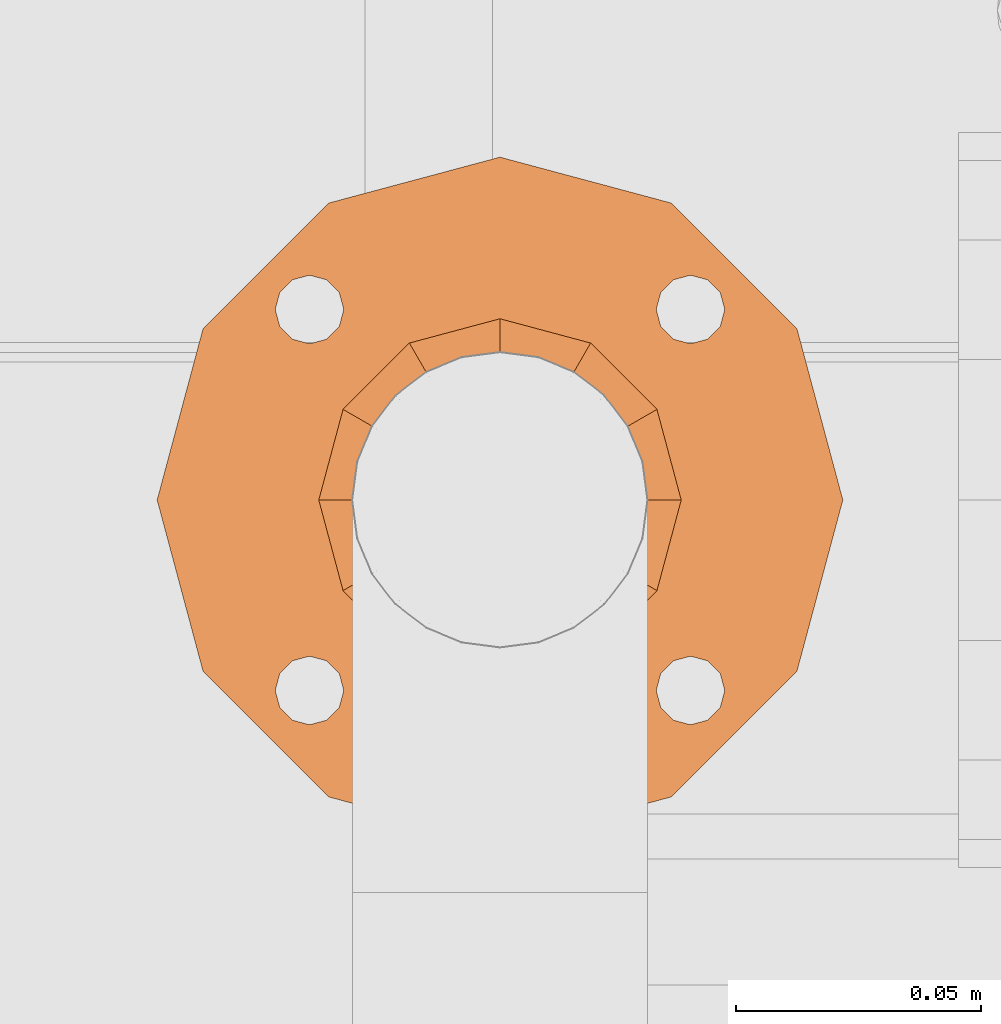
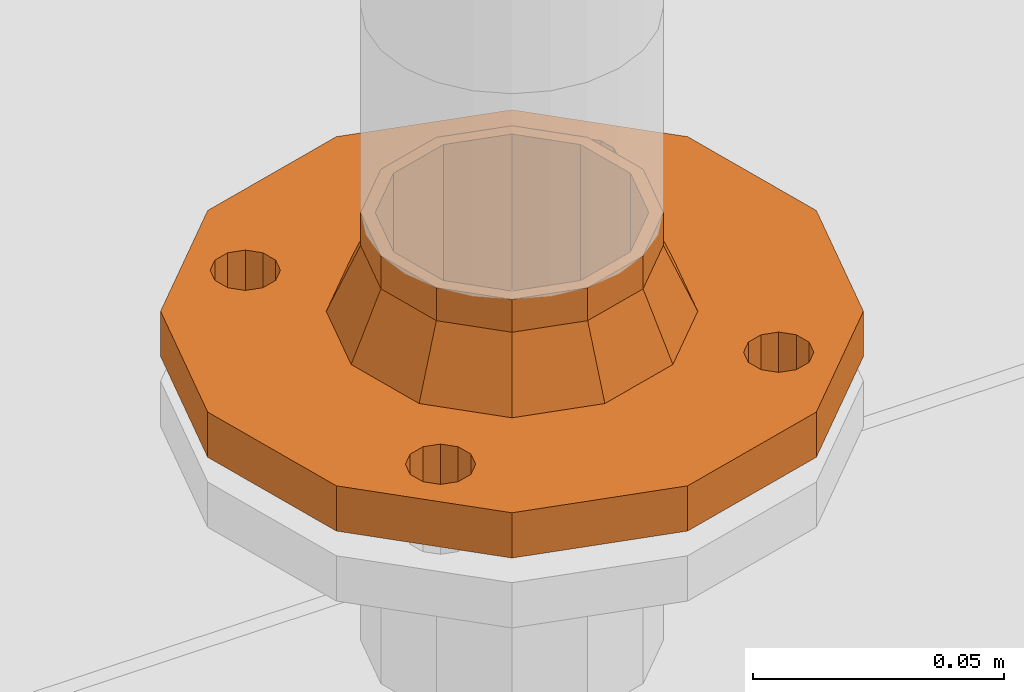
# One storey, part 371 of 374: 1 proxy.
"""IFC2X3 building model written with IfcOpenShell, lengths in metres."""

from ifc_helpers import new_model, si_unit, direction, origin, place, context, subcontext, project, spatial, open_shell, surface_model, source, transform, mapped, element, save


model = new_model("IFC2X3")

# Units and contexts
model_context = context("Model", 3, precision=1e-05, world=origin(), true_north=direction((-0.4480736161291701, 0.8939966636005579)))
body_context = subcontext(model_context, "Body", "Model", "MODEL_VIEW")
ifc_project = project(units=[si_unit("LENGTHUNIT", "METRE"), si_unit("AREAUNIT", "SQUARE_METRE"), si_unit("VOLUMEUNIT", "CUBIC_METRE"), si_unit("PLANEANGLEUNIT", "RADIAN"), si_unit("THERMODYNAMICTEMPERATUREUNIT", "KELVIN"), si_unit("MASSUNIT", "GRAM", prefix="KILO"), si_unit("TIMEUNIT", "SECOND")], contexts=[model_context])

# Site, building, storey
site_placement = place(None, origin())
site = spatial("IfcSite", under=ifc_project, at=site_placement, Name="Site 1", CompositionType="ELEMENT")
building_placement = place(site_placement, origin())
building = spatial("IfcBuilding", under=site, at=building_placement, Name="Undefined", CompositionType="ELEMENT")
storey_placement = place(building_placement, origin())
storey = spatial("IfcBuildingStorey", under=building, at=storey_placement, Name="Rez de chauss\x8ee", CompositionType="ELEMENT", Elevation=0.0)

# Proxy
shared_shape = source(origin(), body_context, "Body", "SurfaceModel", [
    surface_model("IfcFaceBasedSurfaceModel", [(0.011581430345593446, 7.105427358e-15, 7.105427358e-15), (0.010447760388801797, 0.0034415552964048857, 3.552713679e-15), (0.0, 0.0, 0.0), (0.009465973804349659, 0.00642202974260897, -0.001811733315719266), (-0.0009817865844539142, 0.0029804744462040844, -0.001811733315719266), (0.008899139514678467, 0.008142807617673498, -0.00494974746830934), (-0.0015486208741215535, 0.004701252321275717, -0.00494974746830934), (0.008899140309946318, 0.008142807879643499, -0.008573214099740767), (-0.0015486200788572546, 0.004701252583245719, -0.008573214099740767), (0.009465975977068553, 0.006422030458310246, -0.01171122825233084), (-0.0009817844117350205, 0.002980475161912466, -0.01171122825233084), (0.010447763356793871, 0.003441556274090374, -0.013522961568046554), (2.967983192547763e-09, 9.77685488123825e-10, -0.013522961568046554), (0.011581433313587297, 9.77678382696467e-10, -0.013522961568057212), (0.001133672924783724, -0.0034415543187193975, -0.013522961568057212), (0.012563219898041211, -0.0029804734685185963, -0.011711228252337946), (0.002115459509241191, -0.0064220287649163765, -0.011711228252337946), (0.013130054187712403, -0.004701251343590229, -0.008573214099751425), (0.002682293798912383, -0.00814280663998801, -0.008573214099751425), (0.013130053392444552, -0.004701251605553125, -0.0049497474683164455), (0.0026822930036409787, -0.008142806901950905, -0.0049497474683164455), (0.012563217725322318, -0.0029804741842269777, -0.0018117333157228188), (0.0021154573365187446, -0.006422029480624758, -0.0018117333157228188), (0.0011336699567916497, -0.003441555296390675, 7.105427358e-15), (0.010447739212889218, 0.0034415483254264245, 0.0964770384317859), (0.011581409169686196, -6.970971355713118e-09, 0.09647703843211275), (0.0011336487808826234, -0.003441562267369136, 0.09647703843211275), (0.01256319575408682, -0.0029804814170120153, 0.09828877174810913), (0.0021154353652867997, -0.0064220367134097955, 0.09828877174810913), (0.013130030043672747, -0.004701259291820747, 0.10142678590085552), (0.002682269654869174, -0.008142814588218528, 0.10142678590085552), (0.013130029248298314, -0.004701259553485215, 0.10505025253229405), (0.002682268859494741, -0.008142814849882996, 0.10505025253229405), (0.012563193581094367, -0.0029804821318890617, 0.1081882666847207), (0.0021154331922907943, -0.006422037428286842, 0.1081882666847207), (0.011581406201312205, -7.94751287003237e-09, 0.11000000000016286), (0.0011336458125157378, -0.0034415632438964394, 0.11000000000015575), (0.010447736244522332, 0.0034415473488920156, 0.1099999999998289), (-2.414428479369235e-08, -7.947505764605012e-09, 0.109999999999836), (0.009465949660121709, 0.006422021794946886, 0.10818826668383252), (-0.0009818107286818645, 0.0029804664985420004, 0.10818826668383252), (0.008899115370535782, 0.008142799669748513, 0.10505025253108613), (-0.0015486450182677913, 0.0047012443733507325, 0.10505025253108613), (0.008899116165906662, 0.00814279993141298, 0.1014267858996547), (-0.0015486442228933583, 0.0047012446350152, 0.1014267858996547), (0.009465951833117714, 0.006422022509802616, 0.09828877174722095), (-0.0009818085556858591, 0.002980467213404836, 0.09828877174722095), (-2.1175917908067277e-08, -6.970971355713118e-09, 0.096477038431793), (-0.004077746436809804, 0.04753754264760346, 0.046426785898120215), (-0.004077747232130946, 0.04753754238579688, 0.05005025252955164), (-0.014525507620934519, 0.0440959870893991, 0.05005025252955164), (-0.004644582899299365, 0.04925831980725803, 0.05318826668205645), (-0.015092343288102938, 0.04581676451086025, 0.05318826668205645), (-0.005626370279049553, 0.052238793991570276, 0.054999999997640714), (-0.016074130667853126, 0.048797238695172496, 0.054999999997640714), (-0.006760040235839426, 0.05568034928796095, 0.054999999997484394), (-0.017207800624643, 0.05223879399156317, 0.054999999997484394), (-0.0077418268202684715, 0.058660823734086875, 0.05318826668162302), (-0.018189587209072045, 0.05521926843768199, 0.05318826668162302), (-0.008308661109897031, 0.060381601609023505, 0.05005025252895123), (-0.018756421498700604, 0.056940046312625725, 0.05005025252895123), (-0.008308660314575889, 0.06038160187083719, 0.046426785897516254), (-0.01875642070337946, 0.05694004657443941, 0.046426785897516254), (-0.007741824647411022, 0.05866082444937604, 0.043288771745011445), (-0.018189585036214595, 0.055219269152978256, 0.043288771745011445), (-0.0067600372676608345, 0.0556803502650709, 0.041477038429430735), (-0.017207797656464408, 0.05223879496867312, 0.041477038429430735), (-0.005626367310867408, 0.05223879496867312, 0.04147703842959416), (-0.01607412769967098, 0.04879723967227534, 0.04147703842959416), (-0.004644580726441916, 0.049258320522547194, 0.043288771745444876), (-0.015092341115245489, 0.045816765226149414, 0.043288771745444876), (-0.014525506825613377, 0.04409598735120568, 0.046426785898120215), (0.026106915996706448, -0.0440959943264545, 0.0500502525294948), (0.026106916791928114, -0.04409599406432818, 0.046426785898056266), (0.01565915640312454, -0.04753754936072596, 0.046426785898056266), (0.026673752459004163, -0.04581677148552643, 0.04328877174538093), (0.016225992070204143, -0.04925832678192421, 0.04328877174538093), (0.027655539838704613, -0.04879724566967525, 0.04147703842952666), (0.01720777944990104, -0.05223880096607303, 0.04147703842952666), (0.028789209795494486, -0.05223880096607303, 0.041477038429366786), (0.018341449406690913, -0.05568035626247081, 0.041477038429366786), (0.029770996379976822, -0.05521927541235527, 0.043288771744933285), (0.01932323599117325, -0.05866083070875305, 0.043288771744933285), (0.0303378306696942, -0.056940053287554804, 0.0464267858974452), (0.019890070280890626, -0.060381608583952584, 0.0464267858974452), (0.030337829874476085, -0.05694005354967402, 0.050050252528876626), (0.019890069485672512, -0.0603816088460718, 0.050050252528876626), (0.029770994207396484, -0.05521927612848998, 0.05318826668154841), (0.01932323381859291, -0.05866083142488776, 0.05318826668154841), (0.028789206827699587, -0.05223880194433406, 0.05499999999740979), (0.018341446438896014, -0.05568035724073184, 0.05499999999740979), (0.02765553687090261, -0.04879724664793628, 0.05499999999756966), (0.017207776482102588, -0.05223880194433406, 0.05499999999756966), (0.026673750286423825, -0.04581677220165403, 0.05318826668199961), (0.016225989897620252, -0.04925832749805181, 0.05318826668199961), (0.015659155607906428, -0.04753754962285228, 0.0500502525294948), (-0.01978685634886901, -0.016641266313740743, 0.0773611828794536), (-0.015558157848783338, -0.02947859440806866, 0.06955778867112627), (-0.01619972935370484, -0.027530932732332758, 0.06750717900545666), (-0.013116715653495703, -0.036890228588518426, 0.05604191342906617), (-0.013993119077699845, -0.034229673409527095, 0.05529133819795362), (-0.013116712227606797, -0.03689022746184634, 0.04043512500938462), (-0.013993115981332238, -0.03422967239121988, 0.04118570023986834), (-0.015558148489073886, -0.029478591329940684, 0.026919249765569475), (-0.016199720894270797, -0.02753092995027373, 0.028969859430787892), (-0.020021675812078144, -0.015928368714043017, 0.021917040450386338), (-0.019786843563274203, -0.01664126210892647, 0.019115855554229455), (-0.024434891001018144, -0.0025308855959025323, 0.02191704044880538), (-0.02466972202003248, -0.0018179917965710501, 0.019115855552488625), (-0.02825684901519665, 0.009071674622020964, 0.02896985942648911), (-0.02889842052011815, 0.011019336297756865, 0.026919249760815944), (-0.031339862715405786, 0.018430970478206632, 0.04043512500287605), (-0.030463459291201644, 0.015770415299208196, 0.0411857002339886), (-0.03133986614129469, 0.018430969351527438, 0.0560419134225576), (-0.03046346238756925, 0.015770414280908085, 0.05529133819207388), (-0.028256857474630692, 0.009071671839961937, 0.06750717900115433), (-0.02889842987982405, 0.01101933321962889, 0.06955778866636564), (-0.024434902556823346, -0.002530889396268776, 0.07455999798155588), (-0.024669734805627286, -0.0018179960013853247, 0.07736118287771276), (-0.020021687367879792, -0.015928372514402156, 0.07455999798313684), (-0.00551834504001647, -0.03438727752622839, 0.05604191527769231), (-0.007959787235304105, -0.02697564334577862, 0.06955779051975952), (-0.012188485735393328, -0.0141383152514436, 0.07736118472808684), (-0.017071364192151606, 0.0006849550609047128, 0.07736118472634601), (-0.021300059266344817, 0.013522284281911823, 0.06955779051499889), (-0.023741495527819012, 0.020933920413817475, 0.056041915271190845), (-0.023741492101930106, 0.020933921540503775, 0.040435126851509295), (-0.02130004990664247, 0.013522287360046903, 0.02691925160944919), (-0.017071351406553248, 0.0006849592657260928, 0.019115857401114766), (-0.012188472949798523, -0.014138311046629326, 0.0191158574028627), (-0.007959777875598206, -0.02697564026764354, 0.026919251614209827), (-0.005518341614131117, -0.034387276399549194, 0.04043512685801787), (0.01174852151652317, -0.035665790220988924, 0.05781482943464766), (0.008752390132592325, -0.026570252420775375, 0.0744014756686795), (0.003562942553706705, -0.01081631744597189, 0.08397778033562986), (-0.0024293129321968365, 0.007374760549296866, 0.08397778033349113), (-0.007618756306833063, 0.02312869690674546, 0.07440147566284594), (-0.010614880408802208, 0.03222423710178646, 0.05781482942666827), (-0.01061487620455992, 0.03222423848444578, 0.038662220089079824), (-0.007618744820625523, 0.023128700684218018, 0.02207557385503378), (-0.0024292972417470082, 0.007374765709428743, 0.012499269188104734), (0.0035629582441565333, -0.010816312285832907, 0.012499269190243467), (0.008752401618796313, -0.026570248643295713, 0.022075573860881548), (0.011748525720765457, -0.03566578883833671, 0.038662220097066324), (-0.014919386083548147, 0.045291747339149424, -0.001258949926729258), (-0.020587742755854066, 0.062499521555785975, 0.03012119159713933), (-0.005101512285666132, 0.015487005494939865, -0.01937628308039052), (0.006235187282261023, -0.018928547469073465, -0.019376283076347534), (0.016053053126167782, -0.048733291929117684, -0.0012589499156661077), (0.02172139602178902, -0.06594107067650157, 0.030121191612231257), (0.016053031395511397, -0.04873329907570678, 0.09773599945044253), (0.021721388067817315, -0.06594107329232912, 0.06635585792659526), (0.006235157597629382, -0.018928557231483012, 0.11585333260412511), (-0.005101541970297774, 0.015486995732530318, 0.11585333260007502), (-0.014919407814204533, 0.04529174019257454, 0.0977359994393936), (-0.020587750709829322, 0.06249951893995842, 0.06635585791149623), (0.032169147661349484, -0.06249951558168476, 0.06635586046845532), (0.026500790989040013, -0.04529174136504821, 0.0977360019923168), (0.01668291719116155, -0.015486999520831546, 0.11585333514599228), (0.005346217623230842, 0.01892855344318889, 0.11585333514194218), (-0.004471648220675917, 0.04873329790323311, 0.09773600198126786), (-0.010139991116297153, 0.06594107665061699, 0.06635586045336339), (-0.01013998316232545, 0.06594107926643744, 0.03012119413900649), (-0.0044716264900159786, 0.048733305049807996, -0.0012589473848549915), (0.005346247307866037, 0.018928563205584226, -0.019376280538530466), (0.01668294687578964, -0.015486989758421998, -0.019376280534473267), (0.026500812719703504, -0.04529173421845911, -0.0012589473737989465), (0.03216915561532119, -0.0624995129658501, 0.030121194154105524), (0.007370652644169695, 0.012782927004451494, 0.004771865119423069), (0.014658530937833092, -0.009341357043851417, 0.004771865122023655), (0.02097001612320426, -0.028501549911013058, 0.01641872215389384), (0.024613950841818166, -0.0395636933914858, 0.03659167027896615), (0.01465851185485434, -0.009341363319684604, 0.09170518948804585), (0.007370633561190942, 0.012782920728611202, 0.09170518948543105), (-0.002584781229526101, 0.04300525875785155, 0.03659167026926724), (-0.002584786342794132, 0.043005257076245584, 0.059885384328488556), (0.001059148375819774, 0.031943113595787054, 0.08005833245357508), (0.024613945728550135, -0.03956369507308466, 0.059885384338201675), (0.02097000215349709, -0.02850155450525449, 0.08005833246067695), (0.0010591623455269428, 0.031943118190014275, 0.01641872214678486), (0.02746333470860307, -0.03862508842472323, 0.05988538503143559), (0.023819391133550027, -0.02756294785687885, 0.08005833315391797), (0.017507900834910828, -0.008402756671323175, 0.09170519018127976), (0.010220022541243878, 0.013721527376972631, 0.09170519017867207), (0.003908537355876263, 0.03288172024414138, 0.08005833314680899), (0.00026460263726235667, 0.04394386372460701, 0.059885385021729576), (0.00026460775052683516, 0.04394386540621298, 0.036591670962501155), (0.0039085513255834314, 0.0328817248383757, 0.01641872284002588), (0.010220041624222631, 0.013721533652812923, 0.0047718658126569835), (0.01750791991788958, -0.008402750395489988, 0.004771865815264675), (0.023819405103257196, -0.027562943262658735, 0.016418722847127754), (0.027463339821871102, -0.03862508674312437, 0.03659167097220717), (0.016070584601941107, -0.004039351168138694, 0.021917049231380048), (0.019892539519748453, -0.015641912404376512, 0.028969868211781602), (0.02209914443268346, -0.022340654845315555, 0.04118570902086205), (0.022099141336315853, -0.02234065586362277, 0.05529134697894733), (0.01989253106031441, -0.015641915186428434, 0.06750718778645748), (0.011657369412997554, 0.00935813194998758, 0.02191704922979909), (0.0078354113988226, 0.020960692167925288, 0.028969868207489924), (0.005628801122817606, 0.02765943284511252, 0.04118570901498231), (0.005628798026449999, 0.027659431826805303, 0.055291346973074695), (0.007835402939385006, 0.020960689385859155, 0.06750718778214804), (0.011657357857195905, 0.009358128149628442, 0.0745600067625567), (0.016070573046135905, -0.004039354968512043, 0.07456000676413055)], [open_shell([[[0, 1, 2]], [[2, 1, 3]], [[2, 3, 4]], [[4, 3, 5]], [[4, 5, 6]], [[6, 5, 7]], [[6, 7, 8]], [[8, 7, 9]], [[8, 9, 10]], [[10, 9, 11]], [[10, 11, 12]], [[12, 11, 13]], [[12, 13, 14]], [[14, 13, 15]], [[14, 15, 16]], [[16, 15, 17]], [[16, 17, 18]], [[18, 17, 19]], [[18, 19, 20]], [[20, 19, 21]], [[20, 21, 22]], [[22, 21, 0]], [[22, 0, 23]], [[23, 0, 2]], [[24, 25, 26]], [[26, 25, 27]], [[26, 27, 28]], [[28, 27, 29]], [[28, 29, 30]], [[30, 29, 31]], [[30, 31, 32]], [[32, 31, 33]], [[32, 33, 34]], [[34, 33, 35]], [[34, 35, 36]], [[36, 35, 37]], [[36, 37, 38]], [[38, 37, 39]], [[38, 39, 40]], [[40, 39, 41]], [[40, 41, 42]], [[42, 41, 43]], [[42, 43, 44]], [[44, 43, 45]], [[44, 45, 46]], [[46, 45, 24]], [[46, 24, 47]], [[47, 24, 26]], [[48, 49, 50]], [[50, 49, 51]], [[50, 51, 52]], [[52, 51, 53]], [[52, 53, 54]], [[54, 53, 55]], [[54, 55, 56]], [[56, 55, 57]], [[56, 57, 58]], [[58, 57, 59]], [[58, 59, 60]], [[60, 59, 61]], [[60, 61, 62]], [[62, 61, 63]], [[62, 63, 64]], [[64, 63, 65]], [[64, 65, 66]], [[66, 65, 67]], [[66, 67, 68]], [[68, 67, 69]], [[68, 69, 70]], [[70, 69, 48]], [[70, 48, 71]], [[71, 48, 50]], [[72, 73, 74]], [[74, 73, 75]], [[74, 75, 76]], [[76, 75, 77]], [[76, 77, 78]], [[78, 77, 79]], [[78, 79, 80]], [[80, 79, 81]], [[80, 81, 82]], [[82, 81, 83]], [[82, 83, 84]], [[84, 83, 85]], [[84, 85, 86]], [[86, 85, 87]], [[86, 87, 88]], [[88, 87, 89]], [[88, 89, 90]], [[90, 89, 91]], [[90, 91, 92]], [[92, 91, 93]], [[92, 93, 94]], [[94, 93, 72]], [[94, 72, 95]], [[95, 72, 74]], [[96, 97, 98]], [[98, 97, 99]], [[98, 99, 100]], [[100, 99, 101]], [[100, 101, 102]], [[102, 101, 103]], [[102, 103, 104]], [[104, 103, 105]], [[103, 106, 105]], [[105, 106, 107]], [[106, 108, 107]], [[107, 108, 109]], [[108, 110, 109]], [[109, 110, 111]], [[109, 111, 112]], [[112, 111, 113]], [[112, 113, 114]], [[114, 113, 115]], [[113, 116, 115]], [[115, 116, 117]], [[116, 118, 117]], [[117, 118, 119]], [[118, 96, 119]], [[119, 96, 98]], [[120, 97, 121]], [[121, 97, 96]], [[121, 96, 122]], [[122, 96, 118]], [[122, 118, 123]], [[123, 118, 116]], [[123, 116, 124]], [[124, 116, 113]], [[124, 113, 125]], [[125, 113, 111]], [[125, 111, 126]], [[126, 111, 110]], [[126, 110, 127]], [[127, 110, 108]], [[127, 108, 128]], [[128, 108, 106]], [[128, 106, 129]], [[129, 106, 103]], [[129, 103, 130]], [[130, 103, 101]], [[130, 101, 131]], [[131, 101, 99]], [[131, 99, 120]], [[120, 99, 97]], [[132, 121, 133]], [[133, 121, 122]], [[133, 122, 134]], [[134, 122, 123]], [[134, 123, 135]], [[135, 123, 124]], [[135, 124, 136]], [[136, 124, 125]], [[136, 125, 137]], [[137, 125, 126]], [[137, 126, 138]], [[138, 126, 127]], [[138, 127, 139]], [[139, 127, 128]], [[139, 128, 140]], [[140, 128, 129]], [[140, 129, 141]], [[141, 129, 130]], [[141, 130, 142]], [[142, 130, 131]], [[142, 131, 143]], [[143, 131, 120]], [[143, 120, 132]], [[132, 120, 121]], [[2, 4, 140]], [[140, 4, 6]], [[140, 6, 139]], [[139, 6, 144]], [[139, 144, 68]], [[68, 144, 145]], [[68, 145, 66]], [[66, 145, 64]], [[144, 6, 146]], [[146, 6, 8]], [[146, 8, 10]], [[10, 12, 146]], [[146, 12, 147]], [[12, 14, 147]], [[147, 14, 16]], [[147, 16, 18]], [[18, 20, 147]], [[147, 20, 148]], [[22, 141, 20]], [[20, 141, 142]], [[20, 142, 148]], [[148, 142, 78]], [[148, 78, 149]], [[149, 78, 80]], [[149, 80, 82]], [[22, 23, 141]], [[141, 23, 2]], [[141, 2, 140]], [[26, 28, 134]], [[134, 28, 30]], [[134, 30, 133]], [[133, 30, 150]], [[133, 150, 92]], [[92, 150, 151]], [[92, 151, 90]], [[90, 151, 88]], [[150, 30, 152]], [[152, 30, 32]], [[152, 32, 34]], [[34, 36, 152]], [[152, 36, 153]], [[36, 38, 153]], [[153, 38, 40]], [[153, 40, 42]], [[42, 44, 153]], [[153, 44, 154]], [[46, 135, 44]], [[44, 135, 136]], [[44, 136, 154]], [[154, 136, 54]], [[154, 54, 155]], [[155, 54, 56]], [[155, 56, 58]], [[46, 47, 135]], [[135, 47, 134]], [[47, 26, 134]], [[68, 70, 138]], [[138, 70, 71]], [[138, 71, 50]], [[138, 50, 137]], [[137, 50, 52]], [[137, 52, 54]], [[58, 60, 155]], [[155, 60, 145]], [[60, 62, 145]], [[145, 62, 64]], [[92, 94, 132]], [[132, 94, 95]], [[132, 95, 74]], [[132, 74, 143]], [[143, 74, 76]], [[143, 76, 78]], [[82, 84, 149]], [[149, 84, 86]], [[149, 86, 151]], [[151, 86, 88]], [[136, 137, 54]], [[138, 139, 68]], [[142, 143, 78]], [[132, 133, 92]], [[156, 150, 157]], [[157, 150, 152]], [[157, 152, 158]], [[158, 152, 153]], [[158, 153, 159]], [[159, 153, 154]], [[159, 154, 160]], [[160, 154, 155]], [[160, 155, 161]], [[161, 155, 145]], [[161, 145, 162]], [[162, 145, 144]], [[162, 144, 163]], [[163, 144, 146]], [[163, 146, 164]], [[164, 146, 147]], [[164, 147, 165]], [[165, 147, 148]], [[165, 148, 166]], [[166, 148, 149]], [[166, 149, 167]], [[167, 149, 151]], [[167, 151, 156]], [[156, 151, 150]], [[5, 3, 168]], [[168, 3, 1]], [[168, 1, 169]], [[169, 1, 0]], [[169, 0, 21]], [[21, 19, 169]], [[169, 19, 165]], [[169, 165, 170]], [[170, 165, 166]], [[170, 166, 171]], [[171, 166, 167]], [[171, 167, 77]], [[77, 167, 79]], [[19, 17, 165]], [[165, 17, 15]], [[165, 15, 13]], [[165, 13, 164]], [[164, 13, 11]], [[164, 11, 9]], [[9, 7, 164]], [[164, 7, 5]], [[164, 5, 168]], [[29, 27, 172]], [[172, 27, 25]], [[172, 25, 173]], [[173, 25, 24]], [[173, 24, 45]], [[45, 43, 173]], [[173, 43, 159]], [[173, 159, 160]], [[43, 41, 159]], [[159, 41, 39]], [[159, 39, 37]], [[159, 37, 158]], [[158, 37, 35]], [[158, 35, 33]], [[33, 31, 158]], [[158, 31, 29]], [[158, 29, 172]], [[48, 69, 174]], [[174, 69, 67]], [[174, 67, 162]], [[162, 67, 65]], [[162, 65, 63]], [[63, 61, 162]], [[162, 61, 59]], [[162, 59, 161]], [[161, 59, 57]], [[161, 57, 55]], [[55, 53, 161]], [[161, 53, 175]], [[161, 175, 160]], [[160, 175, 176]], [[160, 176, 173]], [[53, 51, 175]], [[175, 51, 49]], [[175, 49, 174]], [[174, 49, 48]], [[72, 93, 177]], [[177, 93, 91]], [[177, 91, 156]], [[156, 91, 89]], [[156, 89, 87]], [[87, 85, 156]], [[156, 85, 167]], [[85, 83, 167]], [[167, 83, 81]], [[167, 81, 79]], [[77, 75, 171]], [[171, 75, 73]], [[171, 73, 72]], [[177, 156, 178]], [[178, 156, 157]], [[178, 157, 158]], [[177, 171, 72]], [[164, 168, 163]], [[163, 168, 179]], [[163, 179, 162]], [[162, 179, 174]], [[172, 178, 158]], [[180, 178, 181]], [[181, 178, 172]], [[181, 172, 182]], [[182, 172, 173]], [[182, 173, 183]], [[183, 173, 176]], [[183, 176, 184]], [[184, 176, 175]], [[184, 175, 185]], [[185, 175, 174]], [[185, 174, 186]], [[186, 174, 179]], [[186, 179, 187]], [[187, 179, 168]], [[187, 168, 188]], [[188, 168, 169]], [[188, 169, 189]], [[189, 169, 170]], [[189, 170, 190]], [[190, 170, 171]], [[190, 171, 191]], [[191, 171, 177]], [[191, 177, 180]], [[180, 177, 178]], [[192, 189, 193]], [[193, 189, 190]], [[193, 190, 194]], [[194, 190, 191]], [[194, 191, 195]], [[195, 191, 180]], [[195, 180, 196]], [[196, 180, 181]], [[196, 181, 182]], [[192, 197, 189]], [[189, 197, 188]], [[197, 198, 188]], [[188, 198, 187]], [[187, 198, 186]], [[186, 198, 199]], [[186, 199, 185]], [[185, 199, 200]], [[185, 200, 184]], [[184, 200, 201]], [[184, 201, 202]], [[184, 202, 183]], [[183, 202, 203]], [[183, 203, 182]], [[182, 203, 196]], [[100, 196, 98]], [[98, 196, 203]], [[98, 203, 119]], [[119, 203, 202]], [[119, 202, 117]], [[117, 202, 201]], [[117, 201, 115]], [[115, 201, 200]], [[115, 200, 114]], [[114, 200, 199]], [[114, 199, 112]], [[112, 199, 198]], [[112, 198, 109]], [[109, 198, 197]], [[109, 197, 107]], [[107, 197, 192]], [[107, 192, 105]], [[105, 192, 193]], [[105, 193, 104]], [[104, 193, 194]], [[104, 194, 102]], [[102, 194, 195]], [[102, 195, 100]], [[100, 195, 196]]])]),
])
proxy_placement = place(storey_placement, origin())
element("IfcBuildingElementProxy", 1, at=proxy_placement, inside=storey, Name="BuildingElementProxy 48", context=body_context, shape_type="MappedRepresentation", body=[
    mapped(shared_shape, transform((54.72927080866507, 13.091603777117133, 1.313999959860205), x_axis=(-0.22123155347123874, -0.22123155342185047, -0.9497963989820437), y_axis=(0.6716074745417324, 0.6716074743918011, -0.3128686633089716), z_axis=(0.7071067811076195, -0.7071067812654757, 0.0))),
])

save(model, "model.ifc")
